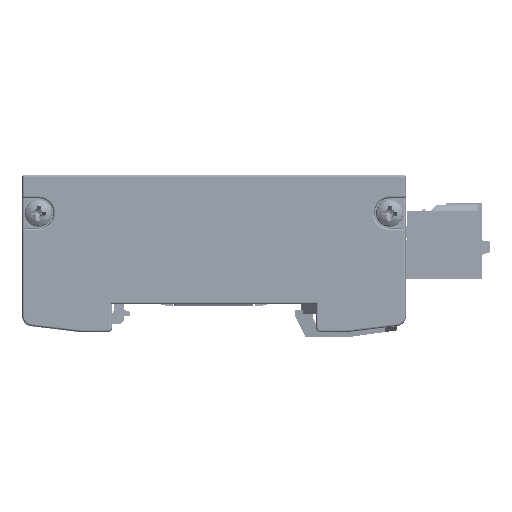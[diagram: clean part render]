
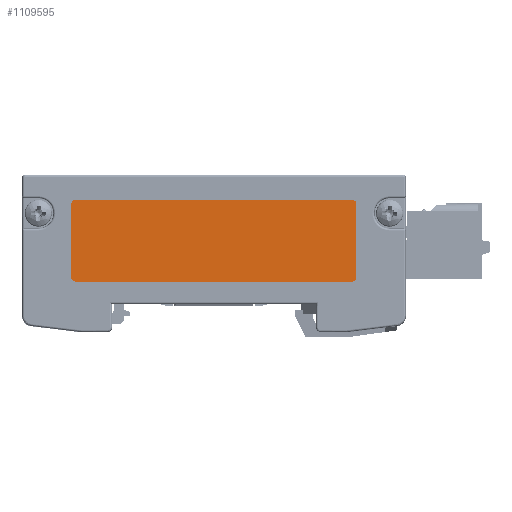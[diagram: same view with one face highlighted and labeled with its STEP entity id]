
A CAD part, left-side view. The second image highlights one B-rep face of the part: STEP entity #1109595.
In plain terms, the highlighted planar face has unit normal (-1, 0, 0) as drawn and (0, 0, -1) by its records, which use the part's own axes.
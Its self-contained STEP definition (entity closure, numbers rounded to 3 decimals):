
#29665 = CARTESIAN_POINT ( 'NONE',  ( -5., 28., -3.9 ) ) ;
#42958 = FACE_OUTER_BOUND ( 'NONE', #1084267, .T. ) ;
#56991 = VERTEX_POINT ( 'NONE', #243946 ) ;
#98745 = DIRECTION ( 'NONE',  ( 0., 0., -1. ) ) ;
#110073 = AXIS2_PLACEMENT_3D ( 'NONE', #930379, #672849, #321882 ) ;
#119128 = EDGE_CURVE ( 'NONE', #669939, #451745, #205013, .T. ) ;
#125076 = LINE ( 'NONE', #997096, #625833 ) ;
#126702 = CARTESIAN_POINT ( 'NONE',  ( -5.75, 28., -3.9 ) ) ;
#127775 = ORIENTED_EDGE ( 'NONE', *, *, #1095501, .T. ) ;
#139150 = LINE ( 'NONE', #478739, #214796 ) ;
#143698 = VERTEX_POINT ( 'NONE', #996535 ) ;
#144858 = CIRCLE ( 'NONE', #1023432, 0.75 ) ;
#148555 = VERTEX_POINT ( 'NONE', #824152 ) ;
#162388 = EDGE_CURVE ( 'NONE', #451745, #653005, #185277, .T. ) ;
#185277 = CIRCLE ( 'NONE', #110073, 0.75 ) ;
#193871 = LINE ( 'NONE', #913233, #684012 ) ;
#197620 = DIRECTION ( 'NONE',  ( 0., 0., -1. ) ) ;
#205013 = LINE ( 'NONE', #29665, #449472 ) ;
#214796 = VECTOR ( 'NONE', #835616, 1000. ) ;
#214848 = CARTESIAN_POINT ( 'NONE',  ( -20.25, 27.25, -3.9 ) ) ;
#243946 = CARTESIAN_POINT ( 'NONE',  ( -21., -27.25, -3.9 ) ) ;
#277478 = AXIS2_PLACEMENT_3D ( 'NONE', #405188, #838400, #762221 ) ;
#304720 = EDGE_CURVE ( 'NONE', #653005, #148555, #125076, .T. ) ;
#321882 = DIRECTION ( 'NONE',  ( -1., 0., 0. ) ) ;
#322905 = CARTESIAN_POINT ( 'NONE',  ( -5., -27.25, -3.9 ) ) ;
#332346 = AXIS2_PLACEMENT_3D ( 'NONE', #214848, #197620, #1092645 ) ;
#339740 = AXIS2_PLACEMENT_3D ( 'NONE', #642620, #98745, #999378 ) ;
#386323 = DIRECTION ( 'NONE',  ( 0., -1., 0. ) ) ;
#405188 = CARTESIAN_POINT ( 'NONE',  ( 0., 0., -3.9 ) ) ;
#410995 = VERTEX_POINT ( 'NONE', #450215 ) ;
#424980 = CIRCLE ( 'NONE', #332346, 0.75 ) ;
#429204 = ORIENTED_EDGE ( 'NONE', *, *, #1146794, .T. ) ;
#449472 = VECTOR ( 'NONE', #386323, 1000. ) ;
#450215 = CARTESIAN_POINT ( 'NONE',  ( -20.25, 28., -3.9 ) ) ;
#451745 = VERTEX_POINT ( 'NONE', #322905 ) ;
#454171 = CARTESIAN_POINT ( 'NONE',  ( -5.75, -28., -3.9 ) ) ;
#474254 = DIRECTION ( 'NONE',  ( -1., 0., 0. ) ) ;
#478739 = CARTESIAN_POINT ( 'NONE',  ( -21., -28., -3.9 ) ) ;
#481549 = PLANE ( 'NONE',  #277478 ) ;
#482646 = ORIENTED_EDGE ( 'NONE', *, *, #162388, .T. ) ;
#484513 = ORIENTED_EDGE ( 'NONE', *, *, #549281, .T. ) ;
#549281 = EDGE_CURVE ( 'NONE', #410995, #654363, #193871, .T. ) ;
#594047 = ORIENTED_EDGE ( 'NONE', *, *, #304720, .T. ) ;
#625833 = VECTOR ( 'NONE', #903652, 1000. ) ;
#642620 = CARTESIAN_POINT ( 'NONE',  ( -5.75, 27.25, -3.9 ) ) ;
#644067 = DIRECTION ( 'NONE',  ( 0., 0., -1. ) ) ;
#653005 = VERTEX_POINT ( 'NONE', #454171 ) ;
#654363 = VERTEX_POINT ( 'NONE', #126702 ) ;
#655632 = DIRECTION ( 'NONE',  ( 1., 0., 0. ) ) ;
#669939 = VERTEX_POINT ( 'NONE', #936853 ) ;
#672849 = DIRECTION ( 'NONE',  ( 0., 0., -1. ) ) ;
#674041 = EDGE_CURVE ( 'NONE', #143698, #410995, #424980, .T. ) ;
#684012 = VECTOR ( 'NONE', #655632, 1000. ) ;
#762221 = DIRECTION ( 'NONE',  ( -1., 0., 0. ) ) ;
#810753 = ORIENTED_EDGE ( 'NONE', *, *, #829968, .T. ) ;
#824152 = CARTESIAN_POINT ( 'NONE',  ( -20.25, -28., -3.9 ) ) ;
#829968 = EDGE_CURVE ( 'NONE', #654363, #669939, #844090, .T. ) ;
#835616 = DIRECTION ( 'NONE',  ( 0., 1., 0. ) ) ;
#838400 = DIRECTION ( 'NONE',  ( 0., 0., -1. ) ) ;
#844090 = CIRCLE ( 'NONE', #339740, 0.75 ) ;
#875603 = ORIENTED_EDGE ( 'NONE', *, *, #119128, .T. ) ;
#903652 = DIRECTION ( 'NONE',  ( -1., 0., 0. ) ) ;
#913117 = CARTESIAN_POINT ( 'NONE',  ( -20.25, -27.25, -3.9 ) ) ;
#913233 = CARTESIAN_POINT ( 'NONE',  ( -21., 28., -3.9 ) ) ;
#930379 = CARTESIAN_POINT ( 'NONE',  ( -5.75, -27.25, -3.9 ) ) ;
#936853 = CARTESIAN_POINT ( 'NONE',  ( -5., 27.25, -3.9 ) ) ;
#996535 = CARTESIAN_POINT ( 'NONE',  ( -21., 27.25, -3.9 ) ) ;
#997096 = CARTESIAN_POINT ( 'NONE',  ( -5., -28., -3.9 ) ) ;
#999378 = DIRECTION ( 'NONE',  ( -1., 0., 0. ) ) ;
#1005338 = ORIENTED_EDGE ( 'NONE', *, *, #674041, .T. ) ;
#1023432 = AXIS2_PLACEMENT_3D ( 'NONE', #913117, #644067, #474254 ) ;
#1084267 = EDGE_LOOP ( 'NONE', ( #429204, #1005338, #484513, #810753, #875603, #482646, #594047, #127775 ) ) ;
#1092645 = DIRECTION ( 'NONE',  ( -1., 0., 0. ) ) ;
#1095501 = EDGE_CURVE ( 'NONE', #148555, #56991, #144858, .T. ) ;
#1109595 = ADVANCED_FACE ( 'NONE', ( #42958 ), #481549, .T. ) ;
#1146794 = EDGE_CURVE ( 'NONE', #56991, #143698, #139150, .T. ) ;
